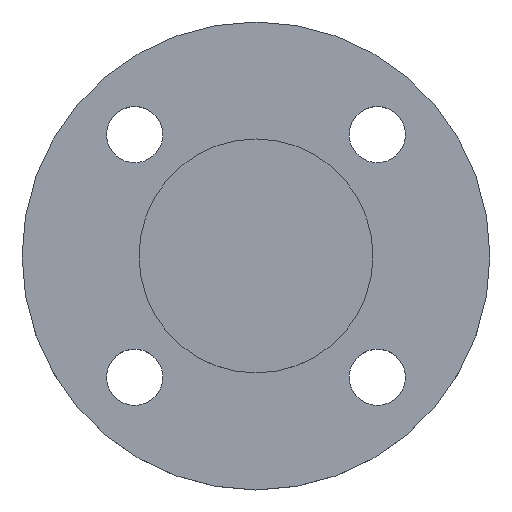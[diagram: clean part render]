
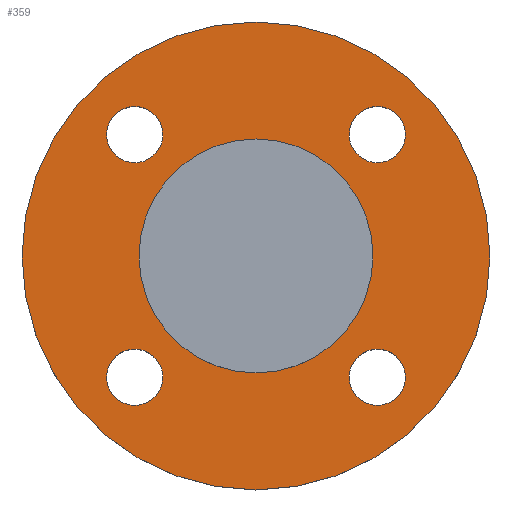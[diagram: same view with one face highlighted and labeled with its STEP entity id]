
A CAD part, top view. The second image highlights one B-rep face of the part: STEP entity #359.
In plain terms, the highlighted planar face has unit normal (0, 0, 1).
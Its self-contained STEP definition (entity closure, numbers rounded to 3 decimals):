
#3 = AXIS2_PLACEMENT_3D ( 'NONE', #231, #232, #233 ) ;
#7 = EDGE_CURVE ( 'NONE', #119, #123, #92, .T. ) ;
#15 = CIRCLE ( 'NONE', #44, 9. ) ;
#17 = AXIS2_PLACEMENT_3D ( 'NONE', #335, #336, #337 ) ;
#26 = AXIS2_PLACEMENT_3D ( 'NONE', #448, #449, #450 ) ;
#29 = CIRCLE ( 'NONE', #17, 75. ) ;
#38 = ORIENTED_EDGE ( 'NONE', *, *, #166, .T. ) ;
#41 = ORIENTED_EDGE ( 'NONE', *, *, #392, .T. ) ;
#42 = ORIENTED_EDGE ( 'NONE', *, *, #266, .T. ) ;
#44 = AXIS2_PLACEMENT_3D ( 'NONE', #367, #368, #369 ) ;
#59 = ORIENTED_EDGE ( 'NONE', *, *, #164, .F. ) ;
#60 = CIRCLE ( 'NONE', #501, 9. ) ;
#65 = VERTEX_POINT ( 'NONE', #269 ) ;
#70 = ORIENTED_EDGE ( 'NONE', *, *, #295, .T. ) ;
#73 = ORIENTED_EDGE ( 'NONE', *, *, #428, .T. ) ;
#78 = AXIS2_PLACEMENT_3D ( 'NONE', #383, #385, #386 ) ;
#81 = CIRCLE ( 'NONE', #97, 37.5 ) ;
#90 = EDGE_CURVE ( 'NONE', #186, #179, #99, .T. ) ;
#92 = CIRCLE ( 'NONE', #3, 9. ) ;
#95 = CIRCLE ( 'NONE', #319, 75. ) ;
#97 = AXIS2_PLACEMENT_3D ( 'NONE', #456, #457, #459 ) ;
#98 = CIRCLE ( 'NONE', #26, 37.5 ) ;
#99 = CIRCLE ( 'NONE', #114, 9. ) ;
#109 = ORIENTED_EDGE ( 'NONE', *, *, #290, .T. ) ;
#114 = AXIS2_PLACEMENT_3D ( 'NONE', #302, #303, #304 ) ;
#116 = ORIENTED_EDGE ( 'NONE', *, *, #122, .T. ) ;
#117 = VERTEX_POINT ( 'NONE', #309 ) ;
#119 = VERTEX_POINT ( 'NONE', #311 ) ;
#120 = AXIS2_PLACEMENT_3D ( 'NONE', #312, #314, #316 ) ;
#121 = AXIS2_PLACEMENT_3D ( 'NONE', #439, #440, #441 ) ;
#122 = EDGE_CURVE ( 'NONE', #65, #208, #223, .T. ) ;
#123 = VERTEX_POINT ( 'NONE', #317 ) ;
#128 = ORIENTED_EDGE ( 'NONE', *, *, #90, .T. ) ;
#130 = ORIENTED_EDGE ( 'NONE', *, *, #7, .T. ) ;
#163 = VERTEX_POINT ( 'NONE', #334 ) ;
#164 = EDGE_CURVE ( 'NONE', #169, #511, #29, .T. ) ;
#165 = ORIENTED_EDGE ( 'NONE', *, *, #515, .F. ) ;
#166 = EDGE_CURVE ( 'NONE', #179, #186, #230, .T. ) ;
#169 = VERTEX_POINT ( 'NONE', #342 ) ;
#173 = ORIENTED_EDGE ( 'NONE', *, *, #239, .T. ) ;
#175 = EDGE_LOOP ( 'NONE', ( #73, #41 ) ) ;
#179 = VERTEX_POINT ( 'NONE', #349 ) ;
#182 = VERTEX_POINT ( 'NONE', #350 ) ;
#183 = CIRCLE ( 'NONE', #78, 9. ) ;
#186 = VERTEX_POINT ( 'NONE', #351 ) ;
#196 = EDGE_LOOP ( 'NONE', ( #42, #116 ) ) ;
#198 = EDGE_LOOP ( 'NONE', ( #165, #59 ) ) ;
#200 = EDGE_LOOP ( 'NONE', ( #38, #128 ) ) ;
#207 = EDGE_LOOP ( 'NONE', ( #70, #109 ) ) ;
#208 = VERTEX_POINT ( 'NONE', #354 ) ;
#210 = VERTEX_POINT ( 'NONE', #356 ) ;
#218 = EDGE_LOOP ( 'NONE', ( #173, #130 ) ) ;
#223 = CIRCLE ( 'NONE', #120, 9. ) ;
#230 = CIRCLE ( 'NONE', #513, 9. ) ;
#231 = CARTESIAN_POINT ( 'NONE',  ( 38.891, -38.891, -4.5 ) ) ;
#232 = DIRECTION ( 'NONE',  ( 0., 0., -1. ) ) ;
#233 = DIRECTION ( 'NONE',  ( 1., 0., 0. ) ) ;
#239 = EDGE_CURVE ( 'NONE', #123, #119, #15, .T. ) ;
#266 = EDGE_CURVE ( 'NONE', #208, #65, #183, .T. ) ;
#269 = CARTESIAN_POINT ( 'NONE',  ( -47.891, 38.891, -4.5 ) ) ;
#290 = EDGE_CURVE ( 'NONE', #117, #163, #512, .T. ) ;
#295 = EDGE_CURVE ( 'NONE', #163, #117, #60, .T. ) ;
#302 = CARTESIAN_POINT ( 'NONE',  ( 38.891, 38.891, -4.5 ) ) ;
#303 = DIRECTION ( 'NONE',  ( 0., 0., -1. ) ) ;
#304 = DIRECTION ( 'NONE',  ( 1., 0., 0. ) ) ;
#309 = CARTESIAN_POINT ( 'NONE',  ( -47.891, -38.891, -4.5 ) ) ;
#311 = CARTESIAN_POINT ( 'NONE',  ( 29.891, -38.891, -4.5 ) ) ;
#312 = CARTESIAN_POINT ( 'NONE',  ( -38.891, 38.891, -4.5 ) ) ;
#314 = DIRECTION ( 'NONE',  ( 0., 0., -1. ) ) ;
#316 = DIRECTION ( 'NONE',  ( 1., 0., 0. ) ) ;
#317 = CARTESIAN_POINT ( 'NONE',  ( 47.891, -38.891, -4.5 ) ) ;
#319 = AXIS2_PLACEMENT_3D ( 'NONE', #484, #485, #486 ) ;
#334 = CARTESIAN_POINT ( 'NONE',  ( -29.891, -38.891, -4.5 ) ) ;
#335 = CARTESIAN_POINT ( 'NONE',  ( 0., 0., -4.5 ) ) ;
#336 = DIRECTION ( 'NONE',  ( 0., 0., -1. ) ) ;
#337 = DIRECTION ( 'NONE',  ( -1., 0., 0. ) ) ;
#338 = CARTESIAN_POINT ( 'NONE',  ( 38.891, 38.891, -4.5 ) ) ;
#340 = DIRECTION ( 'NONE',  ( 0., 0., -1. ) ) ;
#341 = DIRECTION ( 'NONE',  ( 1., 0., 0. ) ) ;
#342 = CARTESIAN_POINT ( 'NONE',  ( -75., 0., -4.5 ) ) ;
#349 = CARTESIAN_POINT ( 'NONE',  ( 47.891, 38.891, -4.5 ) ) ;
#350 = CARTESIAN_POINT ( 'NONE',  ( -37.5, 0., -4.5 ) ) ;
#351 = CARTESIAN_POINT ( 'NONE',  ( 29.891, 38.891, -4.5 ) ) ;
#354 = CARTESIAN_POINT ( 'NONE',  ( -29.891, 38.891, -4.5 ) ) ;
#356 = CARTESIAN_POINT ( 'NONE',  ( 37.5, 0., -4.5 ) ) ;
#359 = ADVANCED_FACE ( 'NONE', ( #431, #432, #433, #434, #435, #436 ), #437, .T. ) ;
#367 = CARTESIAN_POINT ( 'NONE',  ( 38.891, -38.891, -4.5 ) ) ;
#368 = DIRECTION ( 'NONE',  ( 0., 0., -1. ) ) ;
#369 = DIRECTION ( 'NONE',  ( 1., 0., 0. ) ) ;
#383 = CARTESIAN_POINT ( 'NONE',  ( -38.891, 38.891, -4.5 ) ) ;
#385 = DIRECTION ( 'NONE',  ( 0., 0., -1. ) ) ;
#386 = DIRECTION ( 'NONE',  ( 1., 0., 0. ) ) ;
#392 = EDGE_CURVE ( 'NONE', #210, #182, #98, .T. ) ;
#406 = CARTESIAN_POINT ( 'NONE',  ( -38.891, -38.891, -4.5 ) ) ;
#407 = DIRECTION ( 'NONE',  ( 0., 0., -1. ) ) ;
#408 = DIRECTION ( 'NONE',  ( 1., 0., 0. ) ) ;
#410 = CARTESIAN_POINT ( 'NONE',  ( -38.891, -38.891, -4.5 ) ) ;
#411 = DIRECTION ( 'NONE',  ( 0., 0., -1. ) ) ;
#412 = DIRECTION ( 'NONE',  ( 1., 0., 0. ) ) ;
#428 = EDGE_CURVE ( 'NONE', #182, #210, #81, .T. ) ;
#431 = FACE_BOUND ( 'NONE', #218, .T. ) ;
#432 = FACE_BOUND ( 'NONE', #207, .T. ) ;
#433 = FACE_BOUND ( 'NONE', #196, .T. ) ;
#434 = FACE_BOUND ( 'NONE', #200, .T. ) ;
#435 = FACE_BOUND ( 'NONE', #175, .T. ) ;
#436 = FACE_OUTER_BOUND ( 'NONE', #198, .T. ) ;
#437 = PLANE ( 'NONE',  #121 ) ;
#439 = CARTESIAN_POINT ( 'NONE',  ( 37.5, 0., -4.5 ) ) ;
#440 = DIRECTION ( 'NONE',  ( 0., 0., 1. ) ) ;
#441 = DIRECTION ( 'NONE',  ( 1., 0., 0. ) ) ;
#448 = CARTESIAN_POINT ( 'NONE',  ( 0., 0., -4.5 ) ) ;
#449 = DIRECTION ( 'NONE',  ( 0., 0., -1. ) ) ;
#450 = DIRECTION ( 'NONE',  ( -1., 0., 0. ) ) ;
#456 = CARTESIAN_POINT ( 'NONE',  ( 0., 0., -4.5 ) ) ;
#457 = DIRECTION ( 'NONE',  ( 0., 0., -1. ) ) ;
#459 = DIRECTION ( 'NONE',  ( -1., 0., 0. ) ) ;
#483 = CARTESIAN_POINT ( 'NONE',  ( 75., 0., -4.5 ) ) ;
#484 = CARTESIAN_POINT ( 'NONE',  ( 0., 0., -4.5 ) ) ;
#485 = DIRECTION ( 'NONE',  ( 0., 0., -1. ) ) ;
#486 = DIRECTION ( 'NONE',  ( -1., 0., 0. ) ) ;
#501 = AXIS2_PLACEMENT_3D ( 'NONE', #410, #411, #412 ) ;
#511 = VERTEX_POINT ( 'NONE', #483 ) ;
#512 = CIRCLE ( 'NONE', #516, 9. ) ;
#513 = AXIS2_PLACEMENT_3D ( 'NONE', #338, #340, #341 ) ;
#515 = EDGE_CURVE ( 'NONE', #511, #169, #95, .T. ) ;
#516 = AXIS2_PLACEMENT_3D ( 'NONE', #406, #407, #408 ) ;
